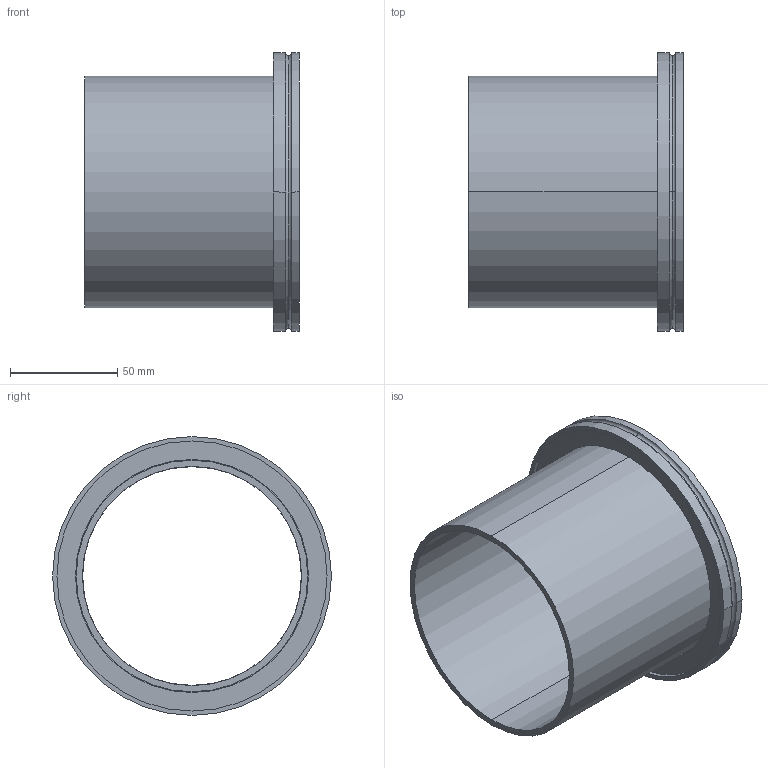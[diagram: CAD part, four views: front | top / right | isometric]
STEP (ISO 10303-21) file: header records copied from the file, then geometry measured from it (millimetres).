
FILE_DESCRIPTION((''),'2;1');
FILE_NAME('N:\Transfer\Berger Martin\Leybold\C13\26905.stp','2005-02-08T10:56:28',('PESO'),(''),'Autodesk Inventor 9','Autodesk Inventor 9','');
FILE_SCHEMA(('AUTOMOTIVE_DESIGN { 1 0 10303 214 1 1 1 1 }'));
Length unit declared in the file: millimetre
Products named in the file (1): 26905
Bounding box: 100 x 130 x 130 mm (x, y, z)
Volume: 136099.7 mm3; surface area: 83031.2 mm2
Topology: 1 solids, 1 shells, 32 faces, 71 edges, 45 vertices
Faces by surface type: cylinder 14, plane 6, bspline 4, torus 4, cone 4
Entity records: 1099 total; most frequent: CARTESIAN_POINT 325, DIRECTION 182, ORIENTED_EDGE 142, AXIS2_PLACEMENT_3D 82, EDGE_CURVE 71, CIRCLE 53, VERTEX_POINT 45, EDGE_LOOP 38
